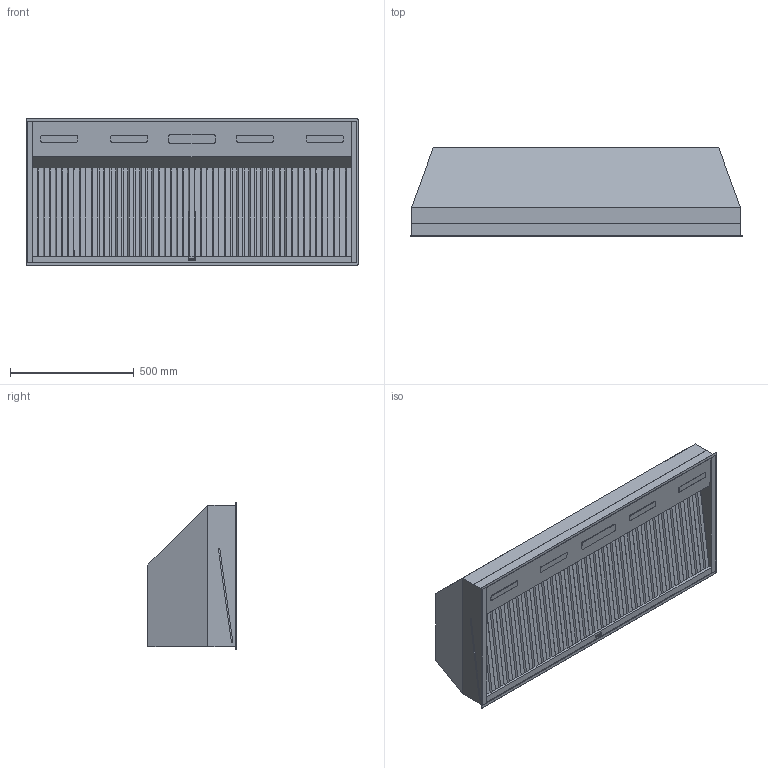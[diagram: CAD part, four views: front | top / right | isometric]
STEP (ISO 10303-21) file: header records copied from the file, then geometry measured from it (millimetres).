
FILE_DESCRIPTION((''),'2;1');
FILE_NAME('HBN554212SS_WEB_CAD_MODEL','2025-04-29T08:28:02',('BoutinM'),(''),'CREO PARAMETRIC BY PTC INC, 2023424','CREO PARAMETRIC BY PTC INC, 2023424','');
FILE_SCHEMA(('CONFIG_CONTROL_DESIGN','SHAPE_APPEARANCE_LAYERS_GROUPS'));
Length unit declared in the file: inch
Products named in the file (1): HBN554212SS_WEB_CAD_MODEL
Bounding box: 1341.81 x 356.36 x 596.9 mm (x, y, z)
Volume: 200702761.9 mm3; surface area: 2827460 mm2
Topology: 1 solids, 1 shells, 326 faces, 830 edges, 518 vertices
Faces by surface type: plane 289, cylinder 37
Entity records: 13085 total; most frequent: CARTESIAN_POINT 1674, ORIENTED_EDGE 1660, DIRECTION 1556, PRESENTATION_STYLE_ASSIGNMENT 888, STYLED_ITEM 831, CURVE_STYLE 830, EDGE_CURVE 830, VECTOR 756
